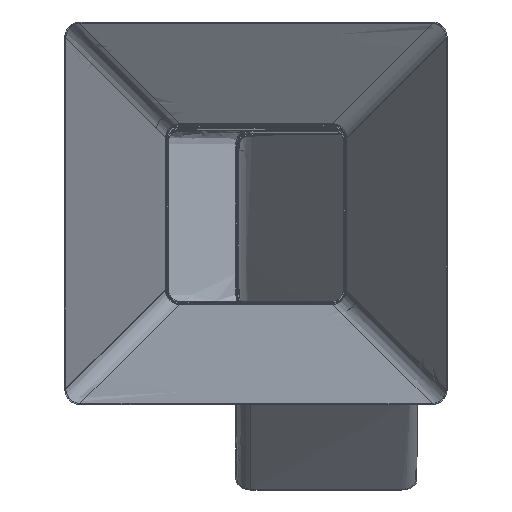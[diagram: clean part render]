
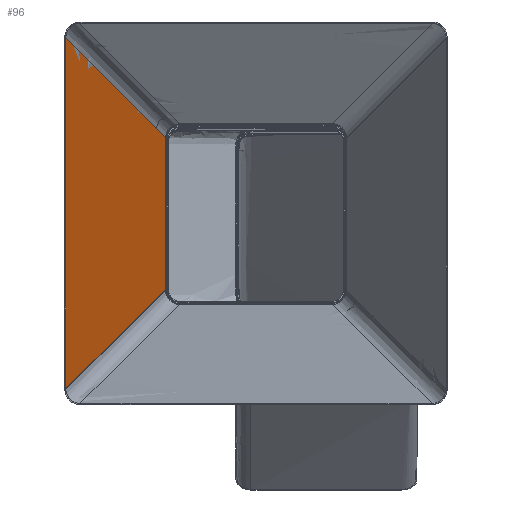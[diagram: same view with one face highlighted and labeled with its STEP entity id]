
A CAD part, top view. The second image highlights one B-rep face of the part: STEP entity #96.
In plain terms, the highlighted free-form (B-spline) face has degree [3, 3] with [7, 4] control points.
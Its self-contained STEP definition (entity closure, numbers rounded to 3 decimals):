
#96=ADVANCED_FACE('',(#215),#1660,.T.);
#215=FACE_OUTER_BOUND('',#334,.T.);
#334=EDGE_LOOP('',(#627,#628,#629,#630));
#627=ORIENTED_EDGE('',*,*,#1053,.T.);
#628=ORIENTED_EDGE('',*,*,#1036,.T.);
#629=ORIENTED_EDGE('',*,*,#1029,.F.);
#630=ORIENTED_EDGE('',*,*,#1030,.T.);
#1029=EDGE_CURVE('',#1515,#1516,#1211,.T.);
#1030=EDGE_CURVE('',#1515,#1521,#1344,.T.);
#1036=EDGE_CURVE('',#1522,#1516,#1349,.T.);
#1053=EDGE_CURVE('',#1521,#1522,#1366,.T.);
#1211=B_SPLINE_CURVE_WITH_KNOTS('',3,(#4082,#4083,#4084,#4085),
 .UNSPECIFIED.,.F.,.F.,(4,4),(0.,405.463),.UNSPECIFIED.);
#1344=(
BOUNDED_CURVE()
B_SPLINE_CURVE(3,(#4086,#4087,#4088,#4089),.UNSPECIFIED.,.F.,.F.)
B_SPLINE_CURVE_WITH_KNOTS((4,4),(-1520.,-1163.969),
 .UNSPECIFIED.)
CURVE()
GEOMETRIC_REPRESENTATION_ITEM()
RATIONAL_B_SPLINE_CURVE((1.,1.,1.,1.))
REPRESENTATION_ITEM('')
);
#1349=(
BOUNDED_CURVE()
B_SPLINE_CURVE(3,(#4137,#4138,#4139,#4140),.UNSPECIFIED.,.F.,.F.)
B_SPLINE_CURVE_WITH_KNOTS((4,4),(1163.969,1520.),.UNSPECIFIED.)
CURVE()
GEOMETRIC_REPRESENTATION_ITEM()
RATIONAL_B_SPLINE_CURVE((1.,1.,1.,1.))
REPRESENTATION_ITEM('')
);
#1366=(
BOUNDED_CURVE()
B_SPLINE_CURVE(3,(#4236,#4237,#4238,#4239,#4240,#4241,#4242),
 .UNSPECIFIED.,.F.,.F.)
B_SPLINE_CURVE_WITH_KNOTS((4,1,1,1,4),(0.,101.366,
202.731,304.097,405.463),.UNSPECIFIED.)
CURVE()
GEOMETRIC_REPRESENTATION_ITEM()
RATIONAL_B_SPLINE_CURVE((1.,1.,1.,1.,1.,1.,1.))
REPRESENTATION_ITEM('')
);
#1515=VERTEX_POINT('',#4034);
#1516=VERTEX_POINT('',#4035);
#1521=VERTEX_POINT('',#4040);
#1522=VERTEX_POINT('',#4041);
#1660=(
BOUNDED_SURFACE()
B_SPLINE_SURFACE(3,3,((#3602,#3603,#3604,#3605),(#3606,#3607,#3608,#3609),
(#3610,#3611,#3612,#3613),(#3614,#3615,#3616,#3617),(#3618,#3619,#3620,
#3621),(#3622,#3623,#3624,#3625),(#3626,#3627,#3628,#3629)),
 .UNSPECIFIED.,.F.,.F.,.F.)
B_SPLINE_SURFACE_WITH_KNOTS((4,1,1,1,4),(4,4),(0.,101.366,
202.731,304.097,405.463),(403.969,760.),
 .UNSPECIFIED.)
GEOMETRIC_REPRESENTATION_ITEM()
RATIONAL_B_SPLINE_SURFACE(((1.,1.,1.,1.),(1.,1.,1.,1.),(1.,1.,1.,1.),(1.,
1.,1.,1.),(1.,1.,1.,1.),(1.,1.,1.,1.),(1.,1.,1.,1.)))
REPRESENTATION_ITEM('')
SURFACE()
);
#3602=CARTESIAN_POINT('',(-159.033,75.,6320.254));
#3603=CARTESIAN_POINT('',(-159.033,25.,6320.254));
#3604=CARTESIAN_POINT('',(-159.033,-25.,6320.254));
#3605=CARTESIAN_POINT('',(-159.033,-75.,6320.254));
#3606=CARTESIAN_POINT('',(-167.366,83.333,6351.921));
#3607=CARTESIAN_POINT('',(-167.366,27.778,6351.921));
#3608=CARTESIAN_POINT('',(-167.366,-27.778,6351.921));
#3609=CARTESIAN_POINT('',(-167.366,-83.333,6351.921));
#3610=CARTESIAN_POINT('',(-184.033,100.,6415.254));
#3611=CARTESIAN_POINT('',(-184.033,33.333,6415.254));
#3612=CARTESIAN_POINT('',(-184.033,-33.333,6415.254));
#3613=CARTESIAN_POINT('',(-184.033,-100.,6415.254));
#3614=CARTESIAN_POINT('',(-209.033,125.,6510.254));
#3615=CARTESIAN_POINT('',(-209.033,41.667,6510.254));
#3616=CARTESIAN_POINT('',(-209.033,-41.667,6510.254));
#3617=CARTESIAN_POINT('',(-209.033,-125.,6510.254));
#3618=CARTESIAN_POINT('',(-234.033,150.,6605.254));
#3619=CARTESIAN_POINT('',(-234.033,50.,6605.254));
#3620=CARTESIAN_POINT('',(-234.033,-50.,6605.254));
#3621=CARTESIAN_POINT('',(-234.033,-150.,6605.254));
#3622=CARTESIAN_POINT('',(-250.7,166.667,6668.588));
#3623=CARTESIAN_POINT('',(-250.7,55.556,6668.588));
#3624=CARTESIAN_POINT('',(-250.7,-55.556,6668.588));
#3625=CARTESIAN_POINT('',(-250.7,-166.667,6668.588));
#3626=CARTESIAN_POINT('',(-259.033,175.,6700.254));
#3627=CARTESIAN_POINT('',(-259.033,58.333,6700.254));
#3628=CARTESIAN_POINT('',(-259.033,-58.333,6700.254));
#3629=CARTESIAN_POINT('',(-259.033,-175.,6700.254));
#4034=CARTESIAN_POINT('',(-159.033,-75.,6320.254));
#4035=CARTESIAN_POINT('',(-259.033,-175.,6700.254));
#4040=CARTESIAN_POINT('',(-159.033,75.,6320.254));
#4041=CARTESIAN_POINT('',(-259.033,175.,6700.254));
#4082=CARTESIAN_POINT('',(-159.033,-75.,6320.254));
#4083=CARTESIAN_POINT('',(-192.366,-108.333,6446.921));
#4084=CARTESIAN_POINT('',(-225.7,-141.667,6573.588));
#4085=CARTESIAN_POINT('',(-259.033,-175.,6700.254));
#4086=CARTESIAN_POINT('',(-159.033,-75.,6320.254));
#4087=CARTESIAN_POINT('',(-159.033,-25.,6320.254));
#4088=CARTESIAN_POINT('',(-159.033,25.,6320.254));
#4089=CARTESIAN_POINT('',(-159.033,75.,6320.254));
#4137=CARTESIAN_POINT('',(-259.033,175.,6700.254));
#4138=CARTESIAN_POINT('',(-259.033,58.333,6700.254));
#4139=CARTESIAN_POINT('',(-259.033,-58.333,6700.254));
#4140=CARTESIAN_POINT('',(-259.033,-175.,6700.254));
#4236=CARTESIAN_POINT('',(-159.033,75.,6320.254));
#4237=CARTESIAN_POINT('',(-167.366,83.333,6351.921));
#4238=CARTESIAN_POINT('',(-184.033,100.,6415.254));
#4239=CARTESIAN_POINT('',(-209.033,125.,6510.254));
#4240=CARTESIAN_POINT('',(-234.033,150.,6605.254));
#4241=CARTESIAN_POINT('',(-250.7,166.667,6668.588));
#4242=CARTESIAN_POINT('',(-259.033,175.,6700.254));
